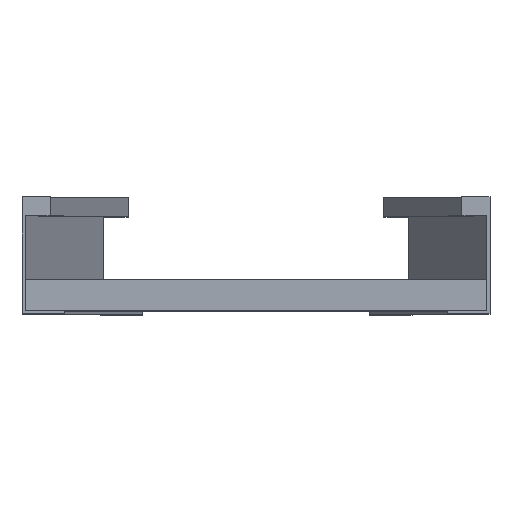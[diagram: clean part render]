
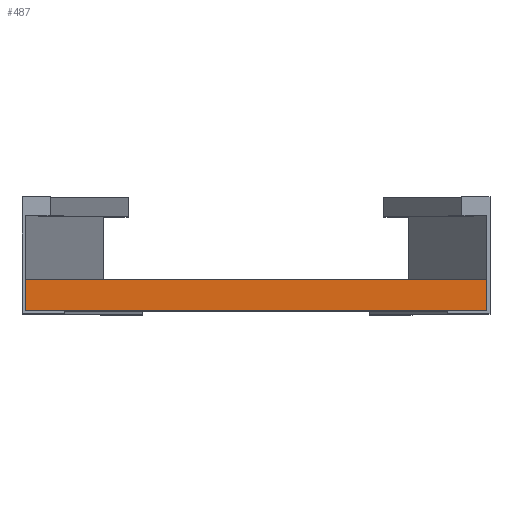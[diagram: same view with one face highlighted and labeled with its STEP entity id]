
A CAD part, top view. The second image highlights one B-rep face of the part: STEP entity #487.
In plain terms, the highlighted planar face has unit normal (0, 0, 1).
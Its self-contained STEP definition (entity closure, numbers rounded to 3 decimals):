
#133 = CARTESIAN_POINT ( 'NONE',  ( 148., 20., 20.25 ) ) ;
#143 = EDGE_CURVE ( 'NONE', #2644, #3284, #1073, .T. ) ;
#146 = EDGE_LOOP ( 'NONE', ( #2976, #1777, #230, #2166 ) ) ;
#163 = VECTOR ( 'NONE', #2670, 1000. ) ;
#188 = DIRECTION ( 'NONE',  ( 0., -1., 0. ) ) ;
#221 = CARTESIAN_POINT ( 'NONE',  ( 148., 0., 20.25 ) ) ;
#230 = ORIENTED_EDGE ( 'NONE', *, *, #3343, .F. ) ;
#381 = LINE ( 'NONE', #1482, #163 ) ;
#487 = ADVANCED_FACE ( 'NONE', ( #2075 ), #1173, .F. ) ;
#569 = VECTOR ( 'NONE', #2684, 1000. ) ;
#708 = DIRECTION ( 'NONE',  ( 0., -1., 0. ) ) ;
#839 = CARTESIAN_POINT ( 'NONE',  ( 148., 0., 20.25 ) ) ;
#1073 = LINE ( 'NONE', #839, #569 ) ;
#1157 = LINE ( 'NONE', #3278, #3521 ) ;
#1173 = PLANE ( 'NONE',  #3140 ) ;
#1188 = VERTEX_POINT ( 'NONE', #2156 ) ;
#1216 = DIRECTION ( 'NONE',  ( 0., 1., 0. ) ) ;
#1385 = CARTESIAN_POINT ( 'NONE',  ( -148., 0., 20.25 ) ) ;
#1482 = CARTESIAN_POINT ( 'NONE',  ( 148., 20., 20.25 ) ) ;
#1498 = CARTESIAN_POINT ( 'NONE',  ( 148., 20., 20.25 ) ) ;
#1544 = DIRECTION ( 'NONE',  ( 0., 0., -1. ) ) ;
#1777 = ORIENTED_EDGE ( 'NONE', *, *, #143, .F. ) ;
#2075 = FACE_OUTER_BOUND ( 'NONE', #146, .T. ) ;
#2156 = CARTESIAN_POINT ( 'NONE',  ( 148., 20., 20.25 ) ) ;
#2166 = ORIENTED_EDGE ( 'NONE', *, *, #3412, .T. ) ;
#2547 = LINE ( 'NONE', #133, #2932 ) ;
#2644 = VERTEX_POINT ( 'NONE', #221 ) ;
#2670 = DIRECTION ( 'NONE',  ( -1., 0., 0. ) ) ;
#2684 = DIRECTION ( 'NONE',  ( -1., 0., 0. ) ) ;
#2932 = VECTOR ( 'NONE', #708, 1000. ) ;
#2976 = ORIENTED_EDGE ( 'NONE', *, *, #3829, .T. ) ;
#3140 = AXIS2_PLACEMENT_3D ( 'NONE', #1498, #1544, #1216 ) ;
#3180 = CARTESIAN_POINT ( 'NONE',  ( -148., 20., 20.25 ) ) ;
#3278 = CARTESIAN_POINT ( 'NONE',  ( -148., 20., 20.25 ) ) ;
#3284 = VERTEX_POINT ( 'NONE', #1385 ) ;
#3343 = EDGE_CURVE ( 'NONE', #1188, #2644, #2547, .T. ) ;
#3412 = EDGE_CURVE ( 'NONE', #1188, #3720, #381, .T. ) ;
#3521 = VECTOR ( 'NONE', #188, 1000. ) ;
#3720 = VERTEX_POINT ( 'NONE', #3180 ) ;
#3829 = EDGE_CURVE ( 'NONE', #3720, #3284, #1157, .T. ) ;
